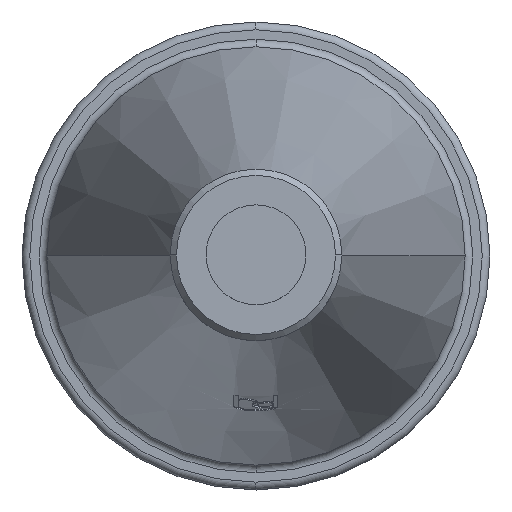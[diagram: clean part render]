
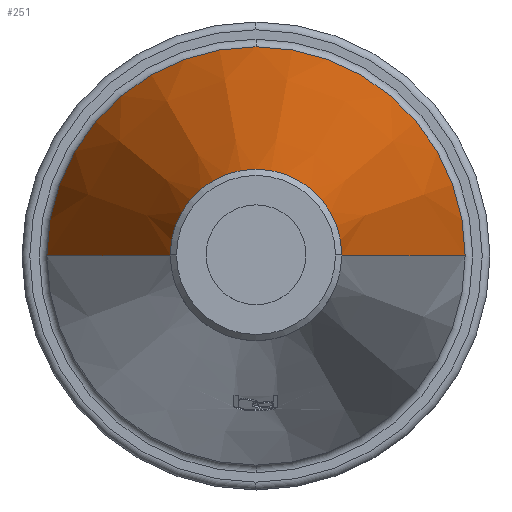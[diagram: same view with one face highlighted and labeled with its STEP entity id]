
A CAD part, top view. The second image highlights one B-rep face of the part: STEP entity #251.
In plain terms, the highlighted conical face has half-angle 13.35 degrees and reference radius 94.544 mm.
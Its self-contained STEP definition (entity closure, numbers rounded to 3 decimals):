
#251=ADVANCED_FACE('',(#553),#554,.T.);
#553=FACE_OUTER_BOUND('',#941,.T.);
#554=CONICAL_SURFACE('',#942,94.544,0.233);
#941=EDGE_LOOP('',(#1514,#1515,#1516,#1517,#1518));
#942=AXIS2_PLACEMENT_3D('',#1519,#1520,#1521);
#1514=ORIENTED_EDGE('',*,*,#2203,.T.);
#1515=ORIENTED_EDGE('',*,*,#2319,.F.);
#1516=ORIENTED_EDGE('',*,*,#2184,.F.);
#1517=ORIENTED_EDGE('',*,*,#2205,.T.);
#1518=ORIENTED_EDGE('',*,*,#2320,.T.);
#1519=CARTESIAN_POINT('',(364.334,398.396,-44.577));
#1520=DIRECTION('',(0.,0.,-1.0));
#1521=DIRECTION('',(1.0,0.,0.));
#2184=EDGE_CURVE('',#2573,#2575,#2576,.T.);
#2203=EDGE_CURVE('',#2608,#2609,#2610,.T.);
#2205=EDGE_CURVE('',#2573,#2611,#2613,.T.);
#2319=EDGE_CURVE('',#2575,#2609,#2786,.T.);
#2320=EDGE_CURVE('',#2611,#2608,#2787,.T.);
#2573=VERTEX_POINT('',#3121);
#2575=VERTEX_POINT('',#3123);
#2576=CIRCLE('',#3124,134.087);
#2608=VERTEX_POINT('',#3242);
#2609=VERTEX_POINT('',#3243);
#2610=LINE('',#3244,#3245);
#2611=VERTEX_POINT('',#3246);
#2613=LINE('',#3248,#3249);
#2786=CIRCLE('',#3845,134.087);
#2787=CIRCLE('',#3846,55.0);
#3121=CARTESIAN_POINT('',(230.247,398.396,-211.213));
#3123=CARTESIAN_POINT('',(364.334,532.483,-211.213));
#3124=AXIS2_PLACEMENT_3D('',#4356,#4357,#4358);
#3242=CARTESIAN_POINT('',(419.334,398.396,122.058));
#3243=CARTESIAN_POINT('',(498.422,398.396,-211.213));
#3244=CARTESIAN_POINT('',(458.878,398.396,-44.577));
#3245=VECTOR('',#4380,1.0);
#3246=CARTESIAN_POINT('',(309.334,398.396,122.058));
#3248=CARTESIAN_POINT('',(269.79,398.396,-44.577));
#3249=VECTOR('',#4384,1.0);
#3845=AXIS2_PLACEMENT_3D('',#4492,#4493,#4494);
#3846=AXIS2_PLACEMENT_3D('',#4495,#4496,#4497);
#4356=CARTESIAN_POINT('',(364.334,398.396,-211.213));
#4357=DIRECTION('',(0.,0.,-1.0));
#4358=DIRECTION('',(1.0,0.,0.));
#4380=DIRECTION('',(0.231,0.,-0.973));
#4384=DIRECTION('',(0.231,0.,0.973));
#4492=CARTESIAN_POINT('',(364.334,398.396,-211.213));
#4493=DIRECTION('',(0.,0.,-1.0));
#4494=DIRECTION('',(1.0,0.,0.));
#4495=CARTESIAN_POINT('',(364.334,398.396,122.058));
#4496=DIRECTION('',(0.,0.,-1.0));
#4497=DIRECTION('',(1.0,0.,0.));
